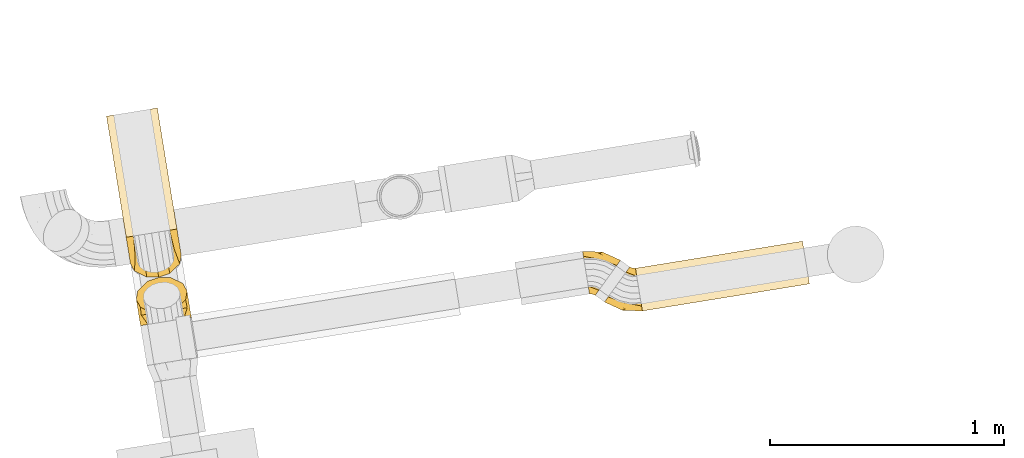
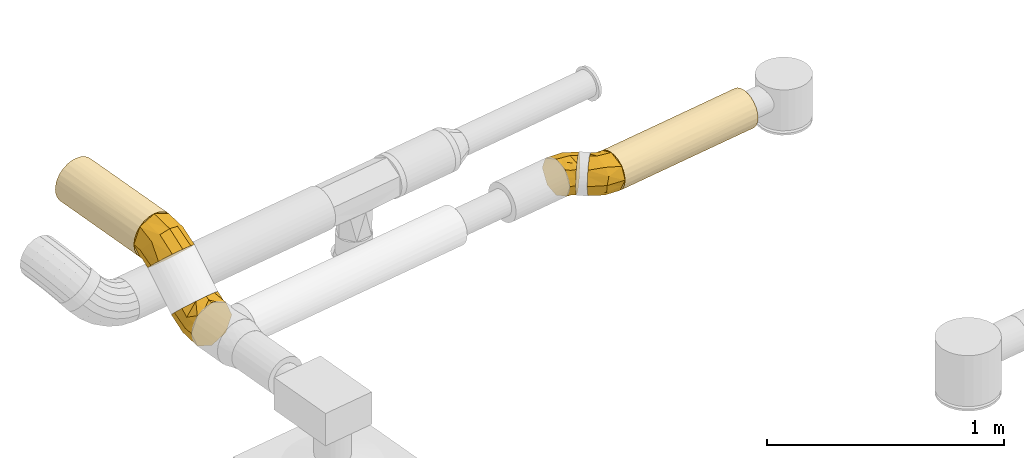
# One storey, part 10 of 39: 6 coverings.
"""IFC2X3 building model written with IfcOpenShell, lengths in millimetres."""

import ifcopenshell
import ifcopenshell.guid

model = None  # the IFC model being written
_history = None  # IfcOwnerHistory: only IFC2X3 demands one
_inside = {}  # id of a spatial element -> (the spatial element, [elements in it])
_under = {}  # id of a project, library or spatial element -> (it, [spatial elements below it])
_declared = {}  # id of a project -> (the project, [libraries it declares])
_typed = {}  # id of a type object -> (the type object, [elements of that type])
_made_of = {}  # id of a material, layer set ... -> (it, [elements and type objects made of it])


def new_model(schema):
    """Start an empty IFC model of exactly this schema.

    Asked for "IFC4X3", IfcOpenShell would pick the latest addendum, in which some entities
    have other attributes; the version numbers below select the first issue.
    IFC2X3 requires an IfcOwnerHistory on every rooted entity: one is made here for all.
    """
    global model, _history
    if schema == "IFC4X3":
        model = ifcopenshell.file(schema_version=(4, 3, 0, 0))
    else:
        model = ifcopenshell.file(schema=schema)
    _inside.clear()
    _under.clear()
    _declared.clear()
    _typed.clear()
    _made_of.clear()
    _history = None
    if model.schema == "IFC2X3":
        org = make("IfcOrganization", Name="unknown")
        user = make(
            "IfcPersonAndOrganization",
            ThePerson=make("IfcPerson", FamilyName="unknown"),
            TheOrganization=org,
        )
        app = make(
            "IfcApplication",
            ApplicationDeveloper=org,
            Version="unknown",
            ApplicationFullName="unknown",
            ApplicationIdentifier="unknown",
        )
        _history = make(
            "IfcOwnerHistory",
            OwningUser=user,
            OwningApplication=app,
            ChangeAction="ADDED",
            CreationDate=0,
        )
    return model


def make(cls, **values):
    """One entity of the class cls with the attributes given. An attribute that is None is left unset."""
    return model.create_entity(
        cls, **{name: value for name, value in values.items() if value is not None}
    )


def entity(cls, *values):
    """Any entity or typed value of the class cls, its attributes in the order of the schema. None: left unset."""
    e = model.create_entity(cls)
    for i, value in enumerate(values):
        if value is not None:
            e[i] = value
    return e


def rooted(cls, **values):
    """An entity with a GlobalId (a new one), such as an element, a storey or a relation."""
    return make(cls, GlobalId=ifcopenshell.guid.new(), OwnerHistory=_history, **values)


def si_unit(unit_type, name, prefix=None):
    """IfcSIUnit, for example si_unit("LENGTHUNIT", "METRE", prefix="MILLI")."""
    return make("IfcSIUnit", UnitType=unit_type, Prefix=prefix, Name=name)


def converted_unit(unit_type, name, factor, base, dimensions=None, offset=None):
    """IfcConversionBasedUnit, such as the inch: factor (a typed value) times the base unit."""
    return make(
        "IfcConversionBasedUnit"
        if offset is None
        else "IfcConversionBasedUnitWithOffset",
        ConversionOffset=offset,
        Dimensions=None
        if dimensions is None
        else entity("IfcDimensionalExponents", *dimensions),
        UnitType=unit_type,
        Name=name,
        ConversionFactor=make(
            "IfcMeasureWithUnit", ValueComponent=factor, UnitComponent=base
        ),
    )


def derived_unit(unit_type, elements):
    """IfcDerivedUnit: a product of units, each with its exponent."""
    return make(
        "IfcDerivedUnit",
        Elements=[
            make("IfcDerivedUnitElement", Unit=unit, Exponent=power)
            for unit, power in elements
        ],
        UnitType=unit_type,
    )


def assignment(units):
    """IfcUnitAssignment: the units of a project."""
    return None if units is None else make("IfcUnitAssignment", Units=units)


def point(xyz):
    """IfcCartesianPoint."""
    return None if xyz is None else make("IfcCartesianPoint", Coordinates=xyz)


def direction(xyz):
    """IfcDirection."""
    return None if xyz is None else make("IfcDirection", DirectionRatios=xyz)


def frame(location, z_axis=None, x_axis=None):
    """IfcAxis2Placement3D, a coordinate frame: its origin and axes. An axis left out is left unset."""
    return make(
        "IfcAxis2Placement3D",
        Location=point(location),
        Axis=direction(z_axis),
        RefDirection=direction(x_axis),
    )


def origin():
    """The frame at (0, 0, 0) with its axes left unset."""
    return frame((0.0, 0.0, 0.0))


def origin_with_axes():
    """The frame at (0, 0, 0) with the z axis (0, 0, 1) and the x axis (1, 0, 0) written out."""
    return frame((0.0, 0.0, 0.0), z_axis=(0.0, 0.0, 1.0), x_axis=(1.0, 0.0, 0.0))


def place(relative_to, where):
    """IfcLocalPlacement: puts the frame where relative to a parent placement (None: the world)."""
    return make(
        "IfcLocalPlacement", PlacementRelTo=relative_to, RelativePlacement=where
    )


def context(
    kind, dimensions, precision=None, world=None, true_north=None, identifier=None
):
    """IfcGeometricRepresentationContext, for example the 3D "Model" context."""
    return make(
        "IfcGeometricRepresentationContext",
        ContextIdentifier=identifier,
        ContextType=kind,
        CoordinateSpaceDimension=dimensions,
        Precision=precision,
        WorldCoordinateSystem=world,
        TrueNorth=true_north,
    )


def subcontext(parent, identifier, kind, view, scale=None):
    """IfcGeometricRepresentationSubContext, for example "Body" below "Model"."""
    return make(
        "IfcGeometricRepresentationSubContext",
        ContextIdentifier=identifier,
        ContextType=kind,
        ParentContext=parent,
        TargetScale=scale,
        TargetView=view,
    )


def project(units=None, contexts=None):
    """IfcProject with its units and contexts."""
    return rooted(
        "IfcProject",
        Name="project",
        RepresentationContexts=contexts,
        UnitsInContext=assignment(units),
    )


def spatial(cls, under=None, at=None, **own):
    """A site, building, storey or space (cls), placed at a placement, below another one or the project."""
    s = rooted(cls, ObjectPlacement=at, **own)
    if under is not None:
        _under.setdefault(under.id(), (under, []))[1].append(s)
    return s


def faces_of(points, faces, orient=None, outer=None):
    """IfcFace entities. A face is a list of loops; a loop is a list of indices into points, from 0.

    orient and outer hold one flag for each loop. By default every Orientation is true, the
    first loop of a face is its IfcFaceOuterBound and the others are IfcFaceBound.
    """
    made = []
    for i, loops in enumerate(faces):
        bounds = []
        for j, loop in enumerate(loops):
            is_outer = j == 0 if outer is None else outer[i][j]
            bounds.append(
                make(
                    "IfcFaceOuterBound" if is_outer else "IfcFaceBound",
                    Bound=make("IfcPolyLoop", Polygon=[points[k] for k in loop]),
                    Orientation=True if orient is None else orient[i][j],
                )
            )
        made.append(make("IfcFace", Bounds=bounds))
    return made


def faceted_brep(points, faces, orient=None, outer=None, voids=None):
    """IfcFacetedBrep: a solid bounded by flat faces; with voids (closed shells), ...WithVoids."""
    shared = [point(p) for p in points]
    hull = make("IfcClosedShell", CfsFaces=faces_of(shared, faces, orient, outer))
    if voids is None:
        return make("IfcFacetedBrep", Outer=hull)
    return make(
        "IfcFacetedBrepWithVoids",
        Outer=hull,
        Voids=[
            make(cls, CfsFaces=faces_of(shared, fs, o, b)) for cls, fs, o, b in voids
        ],
    )


def shape(context_of_items, identifier, shape_type, items):
    """IfcShapeRepresentation: the items that make up one representation, for example the "Body"."""
    return make(
        "IfcShapeRepresentation",
        ContextOfItems=context_of_items,
        RepresentationIdentifier=identifier,
        RepresentationType=shape_type,
        Items=items,
    )


def made_of(thing, what):
    """Note that an element or type object is made of a material, layer set ...; save() writes the relation."""
    if what is not None:
        _made_of.setdefault(what.id(), (what, []))[1].append(thing)
    return thing


def type_object(cls, material=None, **own):
    """A type object (cls), such as IfcWallType, which elements share."""
    return made_of(rooted(cls, **own), material)


def element(
    cls,
    number,
    at=None,
    inside=None,
    cuts=None,
    type_object=None,
    material=None,
    context=None,
    identifier="Body",
    shape_type=None,
    held_by="IfcProductDefinitionShape",
    body=None,
    shapes=None,
    **own,
):
    """One element of the class cls, such as IfcWall. Its Tag is "e" and its number.

    at: its placement. inside: the storey or other place that contains it. cuts: it is an
    opening in that element (IfcRelVoidsElement). A single representation is given by context,
    identifier, shape_type and body (its items); several are given by shapes. held_by: the class
    of the entity that holds the representations. save() writes the other relations.
    """
    e = rooted(cls, Tag="e%d" % number, ObjectPlacement=at, **own)
    if body is not None:
        shapes = [shape(context, identifier, shape_type, body)]
    if shapes is not None:
        e.Representation = make(held_by, Representations=shapes)
    if inside is not None:
        _inside.setdefault(inside.id(), (inside, []))[1].append(e)
    if cuts is not None:
        rooted(
            "IfcRelVoidsElement", RelatingBuildingElement=cuts, RelatedOpeningElement=e
        )
    if type_object is not None:
        _typed.setdefault(type_object.id(), (type_object, []))[1].append(e)
    return made_of(e, material)


def aggregate(whole, parts):
    """IfcRelAggregates: a whole, such as a stair, and the parts it consists of."""
    return rooted("IfcRelAggregates", RelatingObject=whole, RelatedObjects=parts)


def save(model, path):
    """Write the relations noted so far, then the file.

    IfcRelAggregates (storeys below a building ...), IfcRelContainedInSpatialStructure (elements
    in a storey), IfcRelDefinesByType, IfcRelAssociatesMaterial and IfcRelDeclares: one each for
    every whole, place, type object, material and project.
    """
    for whole, parts in _under.values():
        aggregate(whole, parts)
    for where, things in _inside.values():
        rooted(
            "IfcRelContainedInSpatialStructure",
            RelatedElements=things,
            RelatingStructure=where,
        )
    for kind, things in _typed.values():
        rooted("IfcRelDefinesByType", RelatedObjects=things, RelatingType=kind)
    for what, things in _made_of.values():
        rooted("IfcRelAssociatesMaterial", RelatedObjects=things, RelatingMaterial=what)
    for by, libraries in _declared.values():
        rooted("IfcRelDeclares", RelatingContext=by, RelatedDefinitions=libraries)
    model.write(path)


model = new_model("IFC2X3")

# Units and contexts
model_context = context("Model", 3, precision=0.01, world=origin(), true_north=direction((6.12323399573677e-17, 1.0)))
plan_context = context("Plan", 3, precision=1e-05, world=origin_with_axes())
body_context = subcontext(model_context, "Body", "Model", "MODEL_VIEW")
ifc_project = project(units=[converted_unit("PLANEANGLEUNIT", "DEGREE", entity("IfcPositiveLengthMeasure", 0.0174532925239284), si_unit("PLANEANGLEUNIT", "RADIAN"), dimensions=[0, 0, 0, 0, 0, 0, 0]), si_unit("AREAUNIT", "SQUARE_METRE"), si_unit("LENGTHUNIT", "METRE", prefix="MILLI"), si_unit("MASSUNIT", "GRAM", prefix="KILO"), si_unit("POWERUNIT", "WATT"), si_unit("PRESSUREUNIT", "PASCAL", prefix="KILO"), si_unit("FORCEUNIT", "NEWTON", prefix="KILO"), si_unit("ELECTRICVOLTAGEUNIT", "VOLT"), si_unit("ELECTRICCURRENTUNIT", "AMPERE"), si_unit("THERMODYNAMICTEMPERATUREUNIT", "DEGREE_CELSIUS"), si_unit("TIMEUNIT", "SECOND"), si_unit("VOLUMEUNIT", "CUBIC_METRE"), derived_unit("LINEARVELOCITYUNIT", [(si_unit("LENGTHUNIT", "METRE"), 1), (si_unit("TIMEUNIT", "SECOND"), -1)]), derived_unit("VOLUMETRICFLOWRATEUNIT", [(si_unit("VOLUMEUNIT", "CUBIC_METRE"), 1), (si_unit("TIMEUNIT", "SECOND"), -1)]), derived_unit("THERMALTRANSMITTANCEUNIT", [(si_unit("POWERUNIT", "WATT"), 1), (si_unit("THERMODYNAMICTEMPERATUREUNIT", "KELVIN"), -1), (si_unit("AREAUNIT", "SQUARE_METRE"), -1)]), derived_unit("SOUNDPRESSUREUNIT", [(si_unit("PRESSUREUNIT", "PASCAL"), 1)])], contexts=[model_context, plan_context])

# Site, building, storey
site_placement = place(None, frame((-0.00071070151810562, 0.00438415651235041, 0.0), z_axis=(0.0, 0.0, 1.0), x_axis=(-0.160236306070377, 0.987078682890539, 0.0)))
site = spatial("IfcSite", under=ifc_project, at=site_placement, Name="Default", CompositionType="ELEMENT")
building_placement = place(site_placement, origin_with_axes())
building = spatial("IfcBuilding", under=site, at=building_placement, CompositionType="ELEMENT")
storey_placement = place(building_placement, frame((0.0, 0.0, 50999.9999999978), z_axis=(0.0, 0.0, 1.0), x_axis=(1.0, 0.0, 0.0)))
storey = spatial("IfcBuildingStorey", under=building, at=storey_placement, Name="Nivå D", CompositionType="ELEMENT", Elevation=50999.9999999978)

# Coverings
covering_type = type_object("IfcCoveringType", Name="Duct Insulation:MuT030", PredefinedType="INSULATION")
covering_1_placement = place(storey_placement, frame((778920.651672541, -592371.067058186, 2805.87867087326), z_axis=(0.0, 0.0, 1.0), x_axis=(1.0, 0.0, 0.0)))
element("IfcCovering", 1, at=covering_1_placement, inside=storey, type_object=covering_type, Name="Duct Insulation:MuT030", ObjectType="Duct Insulation:MuT030", PredefinedType="INSULATION", context=body_context, shape_type="Brep", body=[
    faceted_brep([(29.5070690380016, 155.387204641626, 133.53740734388), (44.1704958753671, 155.384182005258, 164.971146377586), (66.5723768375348, 155.383398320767, 173.121030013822), (103.623196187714, 155.382102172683, 186.600249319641), (139.054197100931, 155.383691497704, 170.072152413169), (174.485198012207, 155.385280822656, 153.544055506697), (196.114301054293, 155.390997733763, 94.0913554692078), (177.768459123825, 155.394779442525, 54.763685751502), (163.058107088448, 155.39781175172, 23.2293539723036), (103.605406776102, 155.399891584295, 1.60025103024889), (67.7491750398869, 155.398283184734, 18.3267125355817), (32.7434049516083, 155.396712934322, 34.6564448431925), (21.9288534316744, 155.393854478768, 64.3827948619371), (11.1143019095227, 155.390996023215, 94.1091448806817), (67.0115435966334, 66.9937541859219, 186.595270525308), (41.1978773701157, 92.8074204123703, 171.479790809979), (20.7589388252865, 113.246358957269, 159.511542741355), (11.1771055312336, 122.828192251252, 126.809696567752), (1.59527223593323, 132.410025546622, 94.107850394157), (13.4839460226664, 120.521351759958, 53.5017614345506), (20.746359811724, 113.258937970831, 28.6967894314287), (43.8700569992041, 90.1352407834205, 15.1460308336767), (66.9937541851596, 67.0115435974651, 1.5952722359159), (95.1899849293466, 38.815312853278, 18.1058891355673), (113.246358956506, 20.7589388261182, 28.6790000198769), (120.58640703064, 13.4188907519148, 53.7298556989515), (132.41002554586, 1.59527223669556, 94.0826923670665), (120.594168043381, 13.4111297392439, 134.44007533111), (113.25893796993, 20.7463598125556, 159.493753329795), (95.2045980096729, 38.8006997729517, 170.073808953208), (149.686013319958, 86.6364230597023, 165.028406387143), (86.8763715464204, 92.8821019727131, 186.595849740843), (175.006923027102, 84.3914304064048, 133.191215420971), (179.558099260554, 72.1573509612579, 94.0849438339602), (95.9991348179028, 126.928717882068, 186.598246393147), (64.6630034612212, 128.330283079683, 179.802797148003), (8.64038669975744, 142.953784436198, 94.1081868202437), (49.5094983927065, 111.404206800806, 176.729763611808), (33.0874477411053, 134.393482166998, 158.268530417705), (55.2833663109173, 138.670293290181, 14.1522349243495), (95.9813454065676, 126.946507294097, 1.59824810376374), (86.8585821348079, 92.8998913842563, 1.5958514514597), (55.8631371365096, 115.154564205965, 9.7170591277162), (29.037154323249, 133.265769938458, 33.5560592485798), (91.419963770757, 109.923199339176, 1.59704977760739), (147.883613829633, 83.0151341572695, 22.9331263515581), (170.397901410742, 75.6729464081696, 52.6441377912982)], [[[0, 1, 2, 3, 4, 5, 6, 7, 8, 9, 10, 11, 12, 13]], [[14, 15, 16, 17, 18, 19, 20, 21, 22, 23, 24, 25, 26, 27, 28, 29]], [[30, 29, 28]], [[4, 31, 30]], [[31, 14, 29]], [[27, 32, 28]], [[27, 33, 32]], [[5, 4, 30]], [[32, 30, 28]], [[32, 5, 30]], [[6, 5, 32]], [[29, 30, 31]], [[6, 32, 33]], [[4, 3, 34, 31]], [[33, 27, 26]], [[35, 34, 2]], [[31, 15, 14]], [[36, 17, 0]], [[36, 0, 13]], [[16, 15, 37]], [[16, 38, 17]], [[1, 38, 35]], [[38, 16, 37]], [[1, 0, 38]], [[17, 38, 0]], [[31, 35, 37]], [[17, 36, 18]], [[31, 34, 35]], [[35, 2, 1]], [[31, 37, 15]], [[38, 37, 35]], [[34, 3, 2]], [[11, 10, 39]], [[10, 9, 40]], [[19, 36, 12]], [[41, 21, 42]], [[12, 43, 19]], [[40, 39, 10]], [[18, 36, 19]], [[42, 39, 44]], [[43, 42, 20]], [[20, 19, 43]], [[41, 42, 44]], [[36, 13, 12]], [[40, 44, 39]], [[11, 43, 12]], [[43, 11, 39]], [[21, 41, 22]], [[21, 20, 42]], [[43, 39, 42]], [[45, 41, 44, 40, 9]], [[24, 23, 45]], [[46, 25, 24]], [[41, 23, 22]], [[33, 25, 46]], [[8, 46, 45]], [[45, 46, 24]], [[45, 9, 8]], [[33, 26, 25]], [[33, 7, 6]], [[41, 45, 23]], [[7, 33, 46]], [[7, 46, 8]]]),
])
covering_2_placement = place(storey_placement, frame((778822.406485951, -593149.952067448, 2805.90472776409), z_axis=(0.0, 0.0, 1.0), x_axis=(1.0, 0.0, 0.0)))
element("IfcCovering", 2, at=covering_2_placement, inside=storey, type_object=covering_type, Name="Duct Insulation:MuT030", ObjectType="Duct Insulation:MuT030", PredefinedType="INSULATION", context=body_context, shape_type="Brep", body=[
    faceted_brep([(70.1545105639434, 0.0, 4.74713330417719), (94.0952722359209, 0.0, 1.5952722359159), (118.036033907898, 0.0, 4.74713330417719), (140.345272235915, 0.0, 13.9879223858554), (159.502649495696, 0.0, 28.6878949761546), (174.202622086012, 0.0, 47.8452722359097), (183.443411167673, 0.0, 70.1545105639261), (186.595272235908, 0.0, 94.0952722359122), (183.443411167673, 0.0, 118.036033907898), (174.202622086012, 0.0, 140.345272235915), (159.502649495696, 0.0, 159.50264949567), (140.345272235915, 0.0, 174.202622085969), (118.036033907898, 0.0, 183.443411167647), (94.0952722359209, 0.0, 186.595272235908), (70.1545105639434, 0.0, 183.443411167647), (47.845272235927, 0.0, 174.202622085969), (28.687894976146, 0.0, 159.50264949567), (13.9879223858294, 0.0, 140.345272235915), (4.74713330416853, 0.0, 118.036033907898), (1.59527223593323, 0.0, 94.0952722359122), (4.74713330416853, 0.0, 70.1545105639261), (13.9879223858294, 0.0, 47.8452722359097), (28.687894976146, 0.0, 28.6878949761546), (47.845272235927, 0.0, 13.9879223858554), (47.845272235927, 722.958394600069, 13.9879223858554), (28.687894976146, 722.958394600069, 28.6878949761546), (13.9879223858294, 722.958394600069, 47.8452722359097), (4.74713330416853, 722.958394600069, 70.1545105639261), (1.59527223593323, 722.958394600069, 94.0952722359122), (4.74713330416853, 722.958394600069, 118.036033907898), (13.9879223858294, 722.958394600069, 140.345272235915), (28.687894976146, 722.958394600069, 159.50264949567), (47.845272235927, 722.958394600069, 174.202622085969), (70.1545105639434, 722.958394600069, 183.443411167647), (94.0952722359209, 722.958394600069, 186.595272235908), (118.036033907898, 722.958394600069, 183.443411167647), (140.345272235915, 722.958394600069, 174.202622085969), (159.502649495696, 722.958394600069, 159.50264949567), (174.202622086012, 722.958394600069, 140.345272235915), (183.443411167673, 722.958394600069, 118.036033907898), (186.595272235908, 722.958394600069, 94.0952722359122), (183.443411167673, 722.958394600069, 70.1545105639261), (174.202622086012, 722.958394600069, 47.8452722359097), (159.502649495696, 722.958394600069, 28.6878949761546), (140.345272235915, 722.958394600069, 13.9879223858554), (118.036033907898, 722.958394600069, 4.74713330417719), (94.0952722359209, 722.958394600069, 1.5952722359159), (70.1545105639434, 722.958394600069, 4.74713330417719), (20.7100882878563, 361.479196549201, 37.7848400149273), (8.63641561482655, 361.479199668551, 58.6970544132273), (75.7696657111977, 361.479197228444, 3.42872854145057), (94.0952722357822, 387.138207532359, 1.59527223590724), (94.0952722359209, 335.821772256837, 1.5952722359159), (3.4287287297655, 361.47920407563, 75.7696647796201), (1.59527223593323, 387.136999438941, 94.0952722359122), (37.7848400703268, 361.479196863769, 20.710088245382), (58.6970547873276, 361.479197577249, 8.63641545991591), (129.493489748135, 361.479197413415, 8.63641548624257), (112.420878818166, 361.479197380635, 3.42872855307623), (184.761815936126, 361.479197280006, 75.769665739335), (150.405704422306, 361.479197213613, 20.7100882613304), (186.595272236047, 387.137012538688, 94.0952722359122), (186.595272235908, 335.821382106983, 94.0952722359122), (179.55412899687, 361.479197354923, 58.6970547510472), (167.480456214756, 361.479197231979, 37.7848400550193), (179.55412899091, 361.479197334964, 129.493489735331), (184.761815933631, 361.479197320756, 112.420878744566), (112.420878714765, 361.479197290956, 184.761815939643), (167.480456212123, 361.479197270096, 150.405704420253), (94.0952722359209, 387.137012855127, 186.595272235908), (94.0952722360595, 335.821381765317, 186.595272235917), (129.493489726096, 361.479197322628, 179.554128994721), (150.405704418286, 361.479197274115, 167.480456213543), (58.6970547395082, 361.479197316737, 179.554128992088), (75.7696657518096, 361.479197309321, 184.761815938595), (3.42872853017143, 361.479197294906, 112.420878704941), (37.7848400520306, 361.479197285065, 167.480456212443), (8.63641547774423, 361.479197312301, 129.493489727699), (20.7100882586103, 361.479197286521, 150.405704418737)], [[[0, 1, 2, 3, 4, 5, 6, 7, 8, 9, 10, 11, 12, 13, 14, 15, 16, 17, 18, 19, 20, 21, 22, 23]], [[24, 25, 26, 27, 28, 29, 30, 31, 32, 33, 34, 35, 36, 37, 38, 39, 40, 41, 42, 43, 44, 45, 46, 47]], [[48, 49, 26]], [[50, 46, 51, 52, 1]], [[27, 26, 49]], [[53, 27, 49]], [[49, 20, 53]], [[49, 48, 21]], [[25, 48, 26]], [[54, 28, 53, 19]], [[22, 21, 48]], [[28, 27, 53]], [[55, 48, 25]], [[20, 49, 21]], [[56, 24, 47]], [[19, 53, 20]], [[24, 55, 25]], [[1, 0, 50]], [[55, 23, 22]], [[56, 55, 24]], [[50, 0, 56]], [[56, 23, 55]], [[48, 55, 22]], [[23, 56, 0]], [[46, 50, 47]], [[56, 47, 50]], [[57, 58, 45]], [[40, 59, 41]], [[58, 1, 52, 51, 46]], [[57, 45, 44]], [[58, 46, 45]], [[2, 57, 3]], [[57, 2, 58]], [[3, 57, 60]], [[60, 57, 44]], [[60, 4, 3]], [[59, 40, 61, 62, 7]], [[63, 42, 41]], [[59, 6, 63]], [[7, 6, 59]], [[4, 60, 64]], [[64, 5, 4]], [[63, 41, 59]], [[63, 5, 64]], [[43, 42, 64]], [[64, 60, 43]], [[5, 63, 6]], [[63, 64, 42]], [[1, 58, 2]], [[44, 43, 60]], [[65, 66, 39]], [[34, 67, 35]], [[66, 7, 62, 61, 40]], [[65, 39, 38]], [[66, 40, 39]], [[8, 65, 9]], [[65, 8, 66]], [[9, 65, 68]], [[68, 65, 38]], [[68, 10, 9]], [[67, 34, 69, 70, 13]], [[71, 36, 35]], [[67, 12, 71]], [[13, 12, 67]], [[10, 68, 72]], [[72, 11, 10]], [[71, 35, 67]], [[71, 11, 72]], [[37, 36, 72]], [[72, 68, 37]], [[11, 71, 12]], [[71, 72, 36]], [[7, 66, 8]], [[38, 37, 68]], [[73, 74, 33]], [[28, 75, 29]], [[74, 13, 70, 69, 34]], [[73, 33, 32]], [[74, 34, 33]], [[14, 73, 15]], [[73, 14, 74]], [[15, 73, 76]], [[76, 73, 32]], [[76, 16, 15]], [[19, 75, 28, 54]], [[77, 30, 29]], [[75, 18, 77]], [[19, 18, 75]], [[16, 76, 78]], [[78, 17, 16]], [[77, 29, 75]], [[77, 17, 78]], [[31, 30, 78]], [[78, 76, 31]], [[17, 77, 18]], [[77, 78, 30]], [[13, 74, 14]], [[32, 31, 76]]]),
])
covering_3_placement = place(storey_placement, frame((778822.406485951, -592428.588945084, 2805.90472776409), z_axis=(0.0, 0.0, 1.0), x_axis=(1.0, 0.0, 0.0)))
element("IfcCovering", 3, at=covering_3_placement, inside=storey, type_object=covering_type, Name="Duct Insulation:MuT030", ObjectType="Duct Insulation:MuT030", PredefinedType="INSULATION", context=body_context, shape_type="Brep", body=[
    faceted_brep([(168.206296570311, 1.59527223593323, 133.525303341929), (153.545892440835, 1.59527223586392, 164.960452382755), (131.144795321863, 1.59527223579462, 173.112490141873), (94.0952722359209, 1.59527223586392, 186.595272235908), (58.6626821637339, 1.59527223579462, 170.070582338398), (23.2300920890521, 1.59527223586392, 153.545892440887), (1.59527223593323, 1.59527223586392, 94.0952722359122), (19.9373323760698, 1.59527223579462, 54.7658383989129), (34.6446520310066, 1.59527223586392, 23.2300920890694), (94.0952722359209, 1.59527223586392, 1.5952722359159), (129.953112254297, 1.59527223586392, 18.3182858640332), (164.96045238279, 1.59527223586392, 34.6446520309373), (175.777862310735, 1.59527223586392, 64.3699621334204), (186.595272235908, 1.59527223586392, 94.0952722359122), (130.706924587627, 89.9836198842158, 186.595272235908), (156.519137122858, 64.1714073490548, 171.474828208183), (176.956924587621, 43.7336198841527, 159.50264949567), (186.535613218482, 34.1549312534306, 126.7989608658), (196.114301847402, 24.576242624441, 94.0952722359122), (184.221723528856, 36.4688209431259, 53.4914700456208), (176.956924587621, 43.7336198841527, 28.6878949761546), (153.831924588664, 66.858619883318, 15.1415836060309), (130.706924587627, 89.9836198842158, 1.5952722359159), (102.512281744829, 118.178262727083, 18.1113116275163), (84.4569245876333, 136.23361988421, 28.6878949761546), (77.1192854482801, 143.571259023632, 53.7401620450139), (65.2995473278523, 155.390997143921, 94.0952722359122), (77.1192854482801, 143.571259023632, 134.450382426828), (84.4569245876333, 136.23361988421, 159.50264949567), (102.512281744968, 118.178262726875, 170.079232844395), (48.0303815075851, 70.3430249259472, 165.034469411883), (110.842096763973, 64.0952722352, 186.595272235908), (22.7064106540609, 72.591079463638, 133.199929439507), (18.1514739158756, 84.8289187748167, 94.0952722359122), (101.719333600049, 30.0486566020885, 186.595272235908), (133.054811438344, 28.6477447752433, 179.7966750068), (189.069187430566, 14.0324837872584, 94.0952722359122), (148.208021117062, 45.5741162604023, 176.723811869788), (164.628296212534, 22.5866163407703, 158.258789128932), (142.418519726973, 18.3236633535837, 14.1442181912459), (101.719333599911, 30.0486566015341, 1.5952722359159), (110.842096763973, 64.0952722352, 1.5952722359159), (141.838322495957, 41.8398187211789, 9.71135938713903), (168.666597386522, 23.7263208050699, 33.5460382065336), (106.280715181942, 47.0719644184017, 1.5952722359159), (49.8191172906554, 73.9779775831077, 22.9393655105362), (27.307686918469, 81.3173082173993, 52.6532474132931)], [[[0, 1, 2, 3, 4, 5, 6, 7, 8, 9, 10, 11, 12, 13]], [[14, 15, 16, 17, 18, 19, 20, 21, 22, 23, 24, 25, 26, 27, 28, 29]], [[30, 29, 28]], [[4, 31, 30]], [[31, 14, 29]], [[27, 32, 28]], [[27, 33, 32]], [[5, 4, 30]], [[32, 30, 28]], [[32, 5, 30]], [[6, 5, 32]], [[29, 30, 31]], [[6, 32, 33]], [[4, 3, 34, 31]], [[33, 27, 26]], [[35, 34, 2]], [[31, 15, 14]], [[36, 17, 0]], [[36, 0, 13]], [[16, 15, 37]], [[16, 38, 17]], [[1, 38, 35]], [[38, 16, 37]], [[1, 0, 38]], [[17, 38, 0]], [[31, 35, 37]], [[17, 36, 18]], [[31, 34, 35]], [[35, 2, 1]], [[31, 37, 15]], [[38, 37, 35]], [[34, 3, 2]], [[11, 10, 39]], [[10, 9, 40]], [[19, 36, 12]], [[41, 21, 42]], [[12, 43, 19]], [[40, 39, 10]], [[18, 36, 19]], [[42, 39, 44]], [[43, 42, 20]], [[20, 19, 43]], [[41, 42, 44]], [[36, 13, 12]], [[40, 44, 39]], [[11, 43, 12]], [[43, 11, 39]], [[21, 41, 22]], [[21, 20, 42]], [[43, 39, 42]], [[45, 41, 44, 40, 9]], [[24, 23, 45]], [[46, 25, 24]], [[41, 23, 22]], [[33, 25, 46]], [[8, 46, 45]], [[45, 46, 24]], [[45, 9, 8]], [[33, 26, 25]], [[33, 7, 6]], [[41, 45, 23]], [[7, 33, 46]], [[7, 46, 8]]]),
])
covering_4_placement = place(storey_placement, frame((779295.998082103, -590521.577011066, 3023.7600668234), z_axis=(0.0, 0.0, 1.0), x_axis=(1.0, 0.0, 0.0)))
element("IfcCovering", 4, at=covering_4_placement, inside=storey, type_object=covering_type, Name="Duct Insulation:MuT030", ObjectType="Duct Insulation:MuT030", PredefinedType="INSULATION", context=body_context, shape_type="Brep", body=[
    faceted_brep([(157.158764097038, 111.595272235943, 1.59527223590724), (148.679150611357, 61.6510145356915, 10.0748857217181), (114.686914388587, 13.5829135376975, 44.0671219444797), (79.377018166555, 1.59527223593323, 79.3770181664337), (44.0610948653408, 13.5872566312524, 114.692941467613), (10.0718146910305, 61.6595381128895, 148.682221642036), (1.59527223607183, 111.595272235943, 157.158764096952), (10.0748857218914, 161.539529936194, 148.679150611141), (44.0671219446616, 209.607630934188, 114.686914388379), (79.377018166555, 221.595272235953, 79.3770181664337), (114.692941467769, 209.603287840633, 44.0610948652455), (148.682221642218, 161.531006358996, 10.0718146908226), (192.514103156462, 150.486145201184, 32.3490602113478), (192.514103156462, 189.377018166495, 48.4581872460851), (192.514103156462, 203.05414327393, 81.4776881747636), (192.514103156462, 221.595272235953, 126.239933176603), (192.514103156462, 202.867170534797, 171.453570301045), (192.514103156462, 189.377018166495, 204.021679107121), (192.514103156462, 157.304895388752, 217.306387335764), (192.514103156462, 111.595272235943, 236.239933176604), (192.514103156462, 65.8856490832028, 217.306387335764), (192.514103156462, 33.8135263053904, 204.021679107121), (192.514103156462, 20.3233739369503, 171.453570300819), (192.514103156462, 1.59527223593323, 126.239933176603), (192.514103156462, 20.1364011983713, 81.4776881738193), (192.514103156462, 33.8135263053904, 48.4581872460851), (192.514103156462, 72.7043992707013, 32.3490602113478), (192.514103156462, 111.595272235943, 16.2399331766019), (104.548181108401, 26.1298631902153, 177.942305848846), (151.103055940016, 1.59527223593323, 120.788065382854), (91.828297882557, 66.6158432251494, 206.368952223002), (89.1895764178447, 111.595272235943, 215.687406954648), (114.573279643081, 1.59527223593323, 99.697589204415), (148.872912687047, 12.1036298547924, 70.560159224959), (173.379931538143, 111.595272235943, 12.4339098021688), (114.573279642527, 221.595272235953, 99.6975892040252), (148.871530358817, 211.08861771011, 70.5634957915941), (151.103055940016, 221.595272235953, 120.788065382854), (104.543785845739, 197.060459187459, 177.940776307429), (92.8585494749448, 161.506022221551, 204.243534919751)], [[[0, 1, 2, 3, 4, 5, 6, 7, 8, 9, 10, 11]], [[12, 13, 14, 15, 16, 17, 18, 19, 20, 21, 22, 23, 24, 25, 26, 27]], [[5, 4, 28]], [[22, 21, 28]], [[29, 23, 22]], [[22, 28, 29]], [[19, 30, 21, 20]], [[30, 19, 31]], [[6, 5, 30]], [[4, 3, 32, 29]], [[4, 29, 28]], [[28, 30, 5]], [[30, 28, 21]], [[6, 30, 31]], [[33, 24, 29]], [[24, 23, 29]], [[32, 3, 2]], [[26, 34, 27]], [[1, 33, 2]], [[24, 33, 25]], [[33, 32, 2]], [[34, 1, 0]], [[1, 26, 25]], [[32, 33, 29]], [[34, 26, 1]], [[33, 1, 25]], [[10, 35, 36]], [[13, 11, 36]], [[36, 37, 14]], [[13, 36, 14]], [[11, 12, 34]], [[34, 0, 11]], [[37, 15, 14]], [[10, 9, 35]], [[37, 36, 35]], [[36, 11, 10]], [[11, 13, 12]], [[27, 34, 12]], [[38, 37, 8]], [[37, 38, 16]], [[38, 39, 17]], [[37, 16, 15]], [[17, 16, 38]], [[17, 39, 18]], [[31, 7, 6]], [[39, 38, 7]], [[39, 31, 18]], [[8, 37, 35, 9]], [[31, 39, 7]], [[8, 7, 38]], [[31, 19, 18]]]),
])
covering_5_placement = place(storey_placement, frame((779104.363375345, -590521.577011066, 2788.40089011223), z_axis=(0.0, 0.0, 1.0), x_axis=(1.0, 0.0, 0.0)))
element("IfcCovering", 5, at=covering_5_placement, inside=storey, type_object=covering_type, Name="Duct Insulation:MuT030", ObjectType="Duct Insulation:MuT030", PredefinedType="INSULATION", context=body_context, shape_type="Brep", body=[
    faceted_brep([(45.4285138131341, 161.531006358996, 227.763390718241), (36.951971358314, 111.595272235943, 236.239933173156), (45.4315848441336, 61.6510145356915, 227.760319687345), (79.4238210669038, 13.5829135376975, 193.768083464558), (114.733717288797, 1.59527223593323, 158.458187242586), (150.049640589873, 13.5872566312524, 123.142263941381), (184.038920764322, 61.6595381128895, 89.1529837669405), (192.51546321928, 111.595272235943, 80.6764413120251), (184.035849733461, 161.539529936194, 89.156054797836), (150.043613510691, 209.607630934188, 123.148291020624), (114.733717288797, 221.595272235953, 158.458187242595), (79.417793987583, 209.603287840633, 193.7741105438), (1.59621814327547, 189.377018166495, 189.37701816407), (1.59605181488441, 203.054165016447, 156.357464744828), (1.59582633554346, 221.595272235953, 111.595272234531), (1.59559858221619, 202.867173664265, 66.381642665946), (1.59543452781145, 189.377018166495, 33.8135263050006), (1.59536760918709, 157.304894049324, 20.5288175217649), (1.59527223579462, 111.595272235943, 1.59527223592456), (1.59536760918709, 65.8856504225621, 20.5288175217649), (1.59543452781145, 33.8135263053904, 33.8135263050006), (1.59559858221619, 20.3233708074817, 66.3816426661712), (1.59582633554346, 1.59527223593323, 111.595272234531), (1.59605181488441, 20.1363794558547, 156.357464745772), (1.59621814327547, 33.8135263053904, 189.377018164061), (1.59629928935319, 72.7043992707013, 205.486145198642), (1.5963804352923, 111.595272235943, 221.595272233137), (1.59629928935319, 150.486145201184, 205.486145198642), (89.5620521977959, 26.1299140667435, 59.8926229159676), (43.0071605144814, 1.59527223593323, 117.047000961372), (102.281790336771, 66.6156010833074, 31.4660994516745), (104.92053076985, 111.595272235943, 22.1475382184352), (79.5374268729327, 1.59527223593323, 138.137678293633), (45.2376861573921, 12.1036303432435, 167.274990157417), (20.7306875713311, 111.595272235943, 225.401247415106), (79.5374268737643, 221.595272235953, 138.137678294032), (45.2390684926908, 211.088617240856, 167.271653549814), (43.0071605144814, 221.595272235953, 117.047000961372), (89.5664474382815, 197.060408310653, 59.8941524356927), (101.25166577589, 161.505690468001, 33.5912695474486)], [[[0, 1, 2, 3, 4, 5, 6, 7, 8, 9, 10, 11]], [[12, 13, 14, 15, 16, 17, 18, 19, 20, 21, 22, 23, 24, 25, 26, 27]], [[6, 5, 28]], [[21, 20, 28]], [[29, 22, 21]], [[21, 28, 29]], [[18, 30, 20, 19]], [[30, 18, 31]], [[7, 6, 30]], [[5, 4, 32, 29]], [[5, 29, 28]], [[28, 30, 6]], [[30, 28, 20]], [[7, 30, 31]], [[33, 23, 29]], [[23, 22, 29]], [[32, 4, 3]], [[25, 34, 26]], [[2, 33, 3]], [[23, 33, 24]], [[33, 32, 3]], [[34, 2, 1]], [[2, 25, 24]], [[32, 33, 29]], [[34, 25, 2]], [[33, 2, 24]], [[11, 35, 36]], [[12, 0, 36]], [[36, 37, 13]], [[12, 36, 13]], [[0, 27, 34]], [[34, 1, 0]], [[37, 14, 13]], [[11, 10, 35]], [[37, 36, 35]], [[36, 0, 11]], [[0, 12, 27]], [[26, 34, 27]], [[38, 37, 9]], [[37, 38, 15]], [[38, 39, 16]], [[37, 15, 14]], [[16, 15, 38]], [[16, 39, 17]], [[31, 8, 7]], [[39, 38, 8]], [[39, 31, 17]], [[9, 37, 35, 10]], [[31, 39, 8]], [[9, 8, 38]], [[31, 18, 17]]]),
])
covering_6_placement = place(storey_placement, frame((779488.512185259, -590521.577011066, 3261.59527223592), z_axis=(0.0, 0.0, 1.0), x_axis=(1.0, 0.0, 0.0)))
element("IfcCovering", 6, at=covering_6_placement, inside=storey, type_object=covering_type, Name="Duct Insulation:MuT030", ObjectType="Duct Insulation:MuT030", PredefinedType="INSULATION", context=body_context, shape_type="Brep", body=[
    faceted_brep([(0.0, 56.5952722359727, -206.858066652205), (0.0, 83.1251772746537, -217.847113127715), (0.0, 111.595272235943, -221.595272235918), (0.0, 140.065367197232, -217.847113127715), (0.0, 166.595272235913, -206.858066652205), (0.0, 189.377018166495, -189.377018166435), (0.0, 206.858066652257, -166.595272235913), (0.0, 217.847113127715, -140.065367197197), (0.0, 221.595272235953, -111.595272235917), (0.0, 217.847113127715, -83.1251772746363), (0.0, 206.858066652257, -56.5952722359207), (0.0, 189.377018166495, -33.8135263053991), (0.0, 166.595272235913, -16.3324778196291), (0.0, 140.065367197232, -5.34343134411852), (0.0, 111.595272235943, -1.5952722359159), (0.0, 83.1251772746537, -5.34343134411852), (0.0, 56.5952722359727, -16.3324778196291), (0.0, 33.8135263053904, -33.8135263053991), (0.0, 16.3324778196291, -56.5952722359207), (0.0, 5.34343134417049, -83.1251772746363), (0.0, 1.59527223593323, -111.595272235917), (0.0, 5.34343134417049, -140.065367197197), (0.0, 16.3324778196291, -166.595272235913), (0.0, 33.8135263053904, -189.377018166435), (524.107458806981, 183.089411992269, -194.333757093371), (524.107458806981, 198.864139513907, -178.559029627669), (403.34535593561, 198.864139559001, -178.55902956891), (524.107458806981, 179.230461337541, -198.275309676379), (524.107458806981, 208.621504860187, -161.658777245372), (524.107458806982, 212.598398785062, -154.95503024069), (524.107458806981, 213.675246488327, -152.355289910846), (524.107458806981, 214.962724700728, -147.698014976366), (360.685927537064, 219.958807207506, -130.498824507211), (524.107458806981, 221.544614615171, -112.180441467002), (524.107458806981, 221.595272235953, -111.595272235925), (366.2130532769, 221.595272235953, -111.595272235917), (461.67838606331, 217.798709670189, -82.9451434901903), (425.159322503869, 209.987240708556, -62.4117329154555), (524.107458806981, 201.750996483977, -49.2461403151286), (524.107458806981, 199.360292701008, -45.3740605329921), (524.107458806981, 198.275309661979, -43.9600831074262), (524.107458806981, 194.333757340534, -40.1011327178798), (403.345355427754, 178.559029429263, -24.3264048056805), (524.107458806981, 178.559029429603, -24.326404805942), (524.107458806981, 152.355289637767, -9.51529785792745), (524.107458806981, 132.585497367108, -3.63262177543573), (524.107458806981, 130.998089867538, -3.42363561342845), (524.107458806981, 154.955029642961, -10.5921454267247), (524.107458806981, 161.658776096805, -14.5690389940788), (524.107458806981, 111.595272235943, -1.5952722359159), (366.213053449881, 111.595272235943, -1.5952722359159), (461.678386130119, 82.9451434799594, -5.39183480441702), (425.15932274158, 62.4117329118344, -13.2033037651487), (524.107458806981, 49.2461403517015, -21.4395479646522), (524.107458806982, 45.3740605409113, -23.8302517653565), (524.107458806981, 43.9600831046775, -24.9152348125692), (524.107458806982, 40.1011326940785, -28.8567871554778), (403.345355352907, 24.3264048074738, -44.6315150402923), (524.107458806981, 24.3264048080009, -44.6315150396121), (524.107458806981, 9.5152978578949, -70.8352548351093), (524.107458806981, 3.63262177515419, -90.6050471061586), (524.107458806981, 3.42363561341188, -92.1924546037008), (524.107458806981, 10.5921454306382, -68.2355148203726), (524.107458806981, 14.5690390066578, -61.5317683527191), (524.107458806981, 1.59527223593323, -111.595272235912), (366.211913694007, 1.59527223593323, -111.595272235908), (461.678386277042, 5.39183480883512, -140.245401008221), (425.159323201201, 13.2033037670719, -160.778811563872), (524.107458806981, 21.4395479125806, -173.94440403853), (524.107458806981, 23.8302517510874, -177.816483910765), (524.107458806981, 24.9152348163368, -179.230461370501), (524.107458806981, 28.8567872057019, -183.089411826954), (403.345355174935, 44.6315150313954, -198.864139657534), (524.107458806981, 44.63151502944, -198.864139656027), (524.107458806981, 70.8352548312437, -213.67524661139), (524.107458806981, 90.6050471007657, -219.557922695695), (524.107458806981, 92.1924545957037, -219.766908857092), (524.107458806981, 68.2355147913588, -212.598399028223), (524.107458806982, 61.5317682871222, -208.621505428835), (524.107458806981, 111.595272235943, -221.595272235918), (366.214034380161, 111.595272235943, -221.595272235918), (461.678386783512, 140.245401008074, -217.798709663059), (425.159324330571, 160.778811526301, -209.987240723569), (524.107458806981, 173.944403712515, -201.750996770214), (524.107458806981, 177.816483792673, -199.360292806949), (524.107458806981, 159.046196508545, -210.777921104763), (524.107458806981, 142.524472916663, -217.022914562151), (524.107458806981, 139.11578978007, -218.059466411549), (524.107458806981, 133.639266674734, -218.674119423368), (524.107458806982, 5.1310780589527, -139.115789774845), (524.107458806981, 6.16762992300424, -142.524472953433), (524.107458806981, 4.51641515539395, -133.639192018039), (524.107458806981, 12.4126233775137, -159.046196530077), (524.107458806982, 84.0747547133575, -5.1310780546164), (524.107458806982, 80.6660715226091, -6.1676299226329), (524.107458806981, 89.5512968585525, -4.51642252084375), (524.107458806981, 64.1443479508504, -12.4126233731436), (524.107458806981, 218.059466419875, -84.0747547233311), (524.107458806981, 217.022914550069, -80.6660715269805), (524.107458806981, 218.674121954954, -89.5512968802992), (524.107458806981, 210.777921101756, -64.1443479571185), (524.107458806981, 219.818260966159, -131.264585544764)], [[[0, 1, 2, 3, 4, 5, 6, 7, 8, 9, 10, 11, 12, 13, 14, 15, 16, 17, 18, 19, 20, 21, 22, 23]], [[24, 25, 26]], [[27, 24, 26, 5]], [[5, 26, 6]], [[28, 29, 6, 26]], [[29, 30, 7, 6]], [[30, 31, 32, 7]], [[7, 32, 8]], [[33, 34, 8, 32]], [[8, 35, 9]], [[36, 9, 35]], [[36, 37, 9]], [[10, 9, 37]], [[38, 39, 10, 37]], [[39, 40, 11, 10]], [[40, 41, 42, 11]], [[41, 43, 42]], [[44, 45, 13]], [[45, 46, 14, 13]], [[47, 44, 13, 12]], [[48, 47, 12, 42]], [[46, 49, 14]], [[14, 50, 15]], [[51, 15, 50]], [[51, 52, 15]], [[16, 15, 52]], [[53, 54, 16, 52]], [[54, 55, 17, 16]], [[55, 56, 57, 17]], [[56, 58, 57]], [[59, 60, 19]], [[60, 61, 20, 19]], [[62, 59, 19, 18]], [[63, 62, 18, 57]], [[61, 64, 20]], [[20, 65, 21]], [[66, 21, 65]], [[66, 67, 21]], [[22, 21, 67]], [[68, 69, 22, 67]], [[69, 70, 23, 22]], [[70, 71, 72, 23]], [[71, 73, 72]], [[74, 75, 1]], [[75, 76, 2, 1]], [[77, 74, 1, 0]], [[78, 77, 0, 72]], [[76, 79, 2]], [[2, 80, 3]], [[81, 3, 80]], [[81, 82, 3]], [[4, 3, 82]], [[83, 84, 4, 82]], [[85, 83, 82]], [[86, 85, 82, 81]], [[87, 86, 81]], [[88, 87, 81]], [[79, 88, 81, 80]], [[89, 90, 66]], [[91, 89, 66]], [[73, 78, 72]], [[0, 23, 72]], [[92, 68, 67]], [[90, 92, 67, 66]], [[64, 91, 66, 65]], [[93, 94, 51]], [[95, 93, 51]], [[58, 63, 57]], [[18, 17, 57]], [[96, 53, 52]], [[94, 96, 52, 51]], [[49, 95, 51, 50]], [[97, 98, 36]], [[99, 97, 36]], [[43, 48, 42]], [[12, 11, 42]], [[100, 38, 37]], [[98, 100, 37, 36]], [[34, 99, 36, 35]], [[101, 33, 32]], [[31, 101, 32]], [[84, 27, 5, 4]], [[25, 28, 26]], [[27, 84, 83, 85, 86, 87, 88, 79, 76, 75, 74, 77, 78, 73, 71, 70, 69, 68, 92, 90, 89, 91, 64, 61, 60, 59, 62, 63, 58, 56, 55, 54, 53, 96, 94, 93, 95, 49, 46, 45, 44, 47, 48, 43, 41, 40, 39, 38, 100, 98, 97, 99, 34, 33, 101, 31, 30, 29, 28, 25, 24]]], orient=[[False], [False], [False], [False], [False], [False], [False], [False], [False], [False], [False], [False], [False], [False], [False], [False], [False], [False], [False], [False], [False], [False], [False], [False], [False], [False], [False], [False], [False], [False], [False], [False], [False], [False], [False], [False], [False], [False], [False], [False], [False], [False], [False], [False], [False], [False], [False], [False], [False], [False], [False], [False], [False], [False], [False], [False], [False], [False], [False], [False], [False], [False], [False], [False], [False], [False], [False], [False], [False], [False], [False], [False], [False], [False], [False], [False], [False], [False], [False], [False], [False], [False], [False], [False]]),
])

save(model, "model.ifc")
